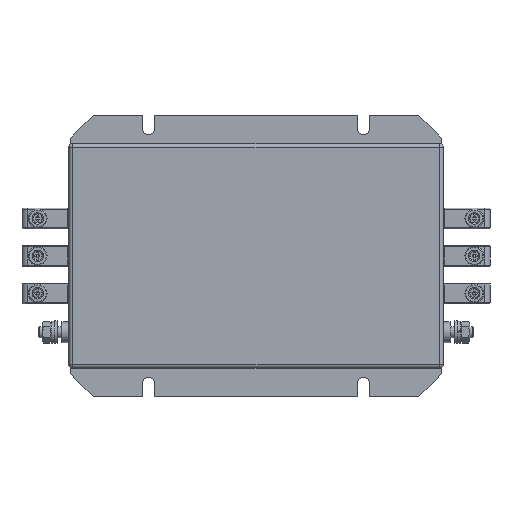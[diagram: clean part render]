
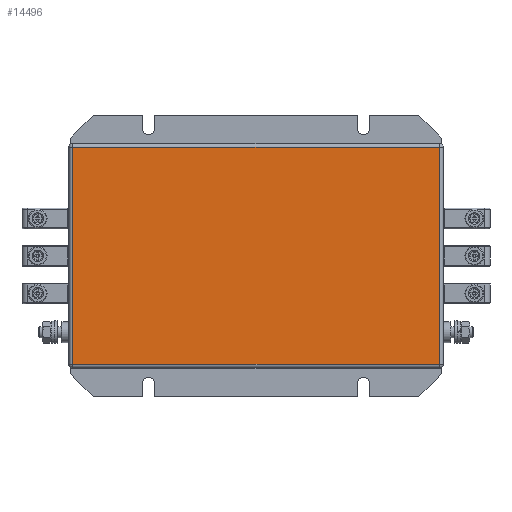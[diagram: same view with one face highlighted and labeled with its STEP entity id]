
A CAD part, top view. The second image highlights one B-rep face of the part: STEP entity #14496.
In plain terms, the highlighted planar face has unit normal (0, 0, 1).
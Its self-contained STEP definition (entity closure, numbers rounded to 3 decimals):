
#14097=CARTESIAN_POINT('',(98.0,-58.0,65.0));
#14098=VERTEX_POINT('',#14097);
#14170=CARTESIAN_POINT('',(-98.,-58.,65.0));
#14171=VERTEX_POINT('',#14170);
#14246=CARTESIAN_POINT('',(98.0,-58.0,65.0));
#14247=DIRECTION('',(-1.0,0.0,0.0));
#14248=VECTOR('',#14247,196.);
#14249=LINE('',#14246,#14248);
#14250=EDGE_CURVE('',#14098,#14171,#14249,.T.);
#14267=CARTESIAN_POINT('',(98.,58.,65.0));
#14268=VERTEX_POINT('',#14267);
#14344=CARTESIAN_POINT('',(-98.0,58.0,65.0));
#14345=VERTEX_POINT('',#14344);
#14418=CARTESIAN_POINT('',(-98.,-58.0,65.0));
#14419=DIRECTION('',(0.0,1.0,0.0));
#14420=VECTOR('',#14419,116.0);
#14421=LINE('',#14418,#14420);
#14422=EDGE_CURVE('',#14171,#14345,#14421,.T.);
#14435=CARTESIAN_POINT('',(-98.,58.0,65.0));
#14436=DIRECTION('',(1.0,0.0,0.0));
#14437=VECTOR('',#14436,196.);
#14438=LINE('',#14435,#14437);
#14439=EDGE_CURVE('',#14345,#14268,#14438,.T.);
#14457=CARTESIAN_POINT('',(98.,58.,65.0));
#14458=DIRECTION('',(0.0,-1.0,0.0));
#14459=VECTOR('',#14458,116.);
#14460=LINE('',#14457,#14459);
#14461=EDGE_CURVE('',#14268,#14098,#14460,.T.);
#14485=CARTESIAN_POINT('',(0.,0.,65.0));
#14486=DIRECTION('',(0.0,0.0,1.0));
#14487=DIRECTION('',(1.0,0.0,0.0));
#14488=AXIS2_PLACEMENT_3D('',#14485,#14486,#14487);
#14489=PLANE('',#14488);
#14490=ORIENTED_EDGE('',*,*,#14250,.F.);
#14491=ORIENTED_EDGE('',*,*,#14461,.F.);
#14492=ORIENTED_EDGE('',*,*,#14439,.F.);
#14493=ORIENTED_EDGE('',*,*,#14422,.F.);
#14494=EDGE_LOOP('',(#14490,#14491,#14492,#14493));
#14495=FACE_OUTER_BOUND('',#14494,.T.);
#14496=ADVANCED_FACE('',(#14495),#14489,.T.);
